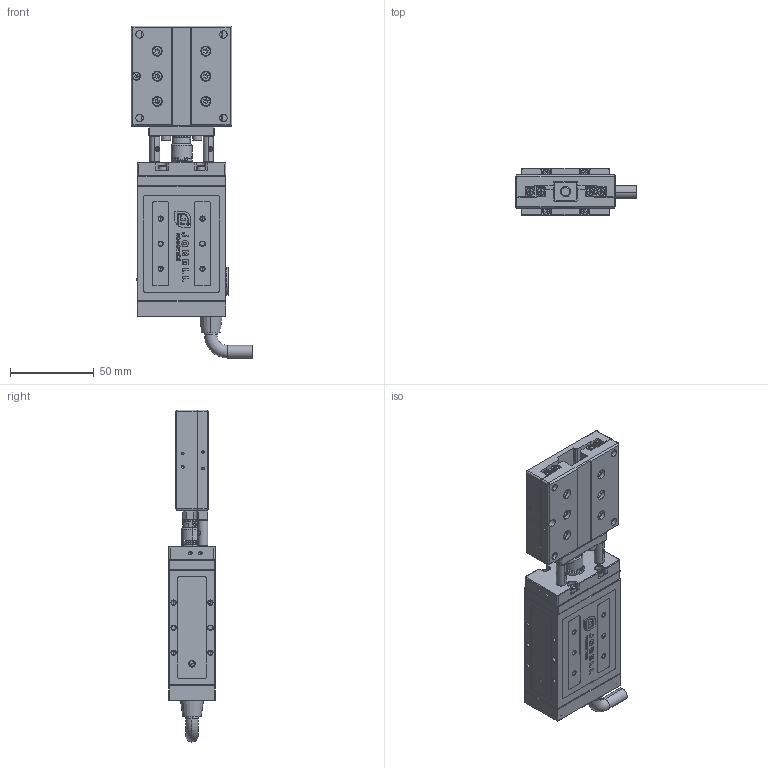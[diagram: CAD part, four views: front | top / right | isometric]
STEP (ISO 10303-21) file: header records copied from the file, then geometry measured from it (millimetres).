
FILE_DESCRIPTION (( 'STEP AP214' ), '1' );
FILE_NAME ('ELS-60賑怢.STEP', '2022-04-13T07:17:58', ( 'User' ), ( 'China' ), 'SwSTEP 2.0', 'SolidWorks 2016', '' );
FILE_SCHEMA (( 'AUTOMOTIVE_DESIGN' ));
Length unit declared in the file: millimetre
Products named in the file (6): hexagon socket head cap screws gb_GB_FASTENER_SCREWS_HSHCS M3X8-N; hexagon socket head cap screws gb_GB_FASTENER_SCREWS_HSHCS M2.5X12-N; 蛌諉楊擘B-B; HEPG02000000萇蛈-B; M2202-012(諦蚚)((1)-B; ELS-60賑怢
Assembly tree (9 placements, depth 2):
  ELS-60賑怢
    M2202-012(諦蚚)((1)-B
    HEPG02000000萇蛈-B
    蛌諉楊擘B-B
    hexagon socket head cap screws gb_GB_FASTENER_SCREWS_HSHCS M2.5X12-N  x4
    hexagon socket head cap screws gb_GB_FASTENER_SCREWS_HSHCS M3X8-N  x2
Bounding box: 72.5 x 28 x 198.25 mm (x, y, z)
Volume: 113041.6 mm3; surface area: 85826 mm2
Topology: 61 solids, 61 shells, 3384 faces, 8566 edges, 5280 vertices
Faces by surface type: plane 1467, cylinder 826, cone 624, bspline 429, torus 34, sphere 4
Entity records: 119811 total; most frequent: CARTESIAN_POINT 28769, ORIENTED_EDGE 16282, DIRECTION 15620, EDGE_CURVE 8141, AXIS2_PLACEMENT_3D 5709, VERTEX_POINT 5148, LINE 4202, VECTOR 4202
